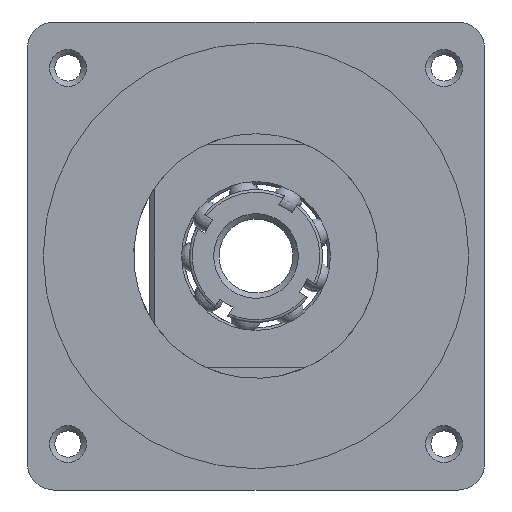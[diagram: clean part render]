
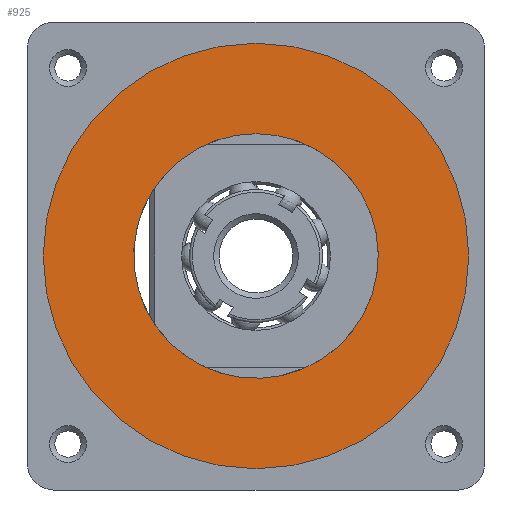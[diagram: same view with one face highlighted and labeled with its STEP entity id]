
A CAD part, left-side view. The second image highlights one B-rep face of the part: STEP entity #925.
In plain terms, the highlighted planar face has unit normal (-1, 0, 0).
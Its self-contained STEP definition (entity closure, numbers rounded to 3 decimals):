
#925=ADVANCED_FACE('',(#3724,#3726),#3728,.T.);
#3724=FACE_BOUND('',#3725,.T.);
#3725=EDGE_LOOP('',(#6037));
#3726=FACE_BOUND('',#3727,.T.);
#3727=EDGE_LOOP('',(#6038,#6039));
#3728=PLANE('',#3729);
#3729=AXIS2_PLACEMENT_3D('',#3730,#3731,#3732);
#3730=CARTESIAN_POINT('',(-6.,0.,0.));
#3731=DIRECTION('',(-1.,0.,0.));
#3732=DIRECTION('',(0.,0.,1.));
#6037=ORIENTED_EDGE('',*,*,#7096,.T.);
#6038=ORIENTED_EDGE('',*,*,#7068,.F.);
#6039=ORIENTED_EDGE('',*,*,#7067,.F.);
#7067=EDGE_CURVE('',#7800,#7801,#7802,.T.);
#7068=EDGE_CURVE('',#7801,#7800,#7803,.T.);
#7096=EDGE_CURVE('',#7851,#7851,#7852,.T.);
#7800=VERTEX_POINT('',#9282);
#7801=VERTEX_POINT('',#9283);
#7802=CIRCLE('',#9284,23.);
#7803=CIRCLE('',#9288,23.);
#7851=VERTEX_POINT('',#9473);
#7852=CIRCLE('',#9474,40.);
#9282=CARTESIAN_POINT('',(-6.,43.,23.));
#9283=CARTESIAN_POINT('',(-6.,38.204,-22.494));
#9284=AXIS2_PLACEMENT_3D('',#9285,#9286,#9287);
#9285=CARTESIAN_POINT('',(-6.,43.,0.));
#9286=DIRECTION('',(-1.,0.,0.));
#9287=DIRECTION('',(0.,0.,1.));
#9288=AXIS2_PLACEMENT_3D('',#9289,#9290,#9291);
#9289=CARTESIAN_POINT('',(-6.,43.,0.));
#9290=DIRECTION('',(-1.,0.,0.));
#9291=DIRECTION('',(0.,-0.209,-0.978));
#9473=CARTESIAN_POINT('',(-6.,43.,40.));
#9474=AXIS2_PLACEMENT_3D('',#9475,#9476,#9477);
#9475=CARTESIAN_POINT('',(-6.,43.,0.));
#9476=DIRECTION('',(-1.,0.,0.));
#9477=DIRECTION('',(0.,0.,1.));
